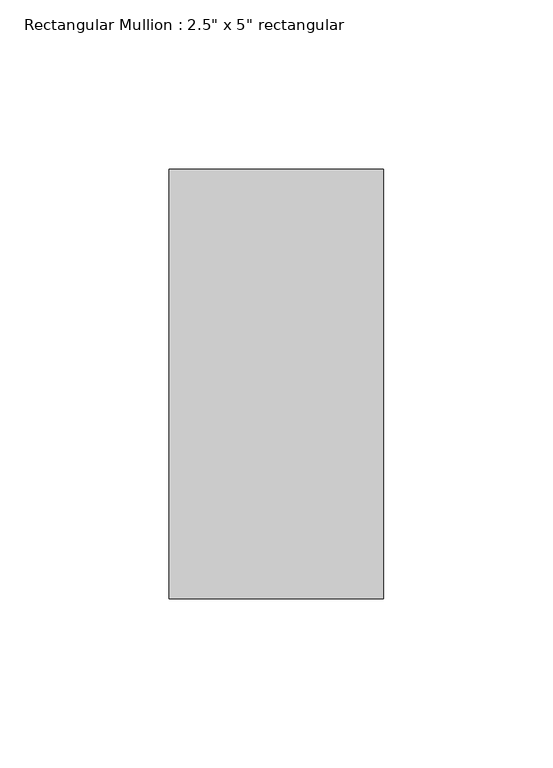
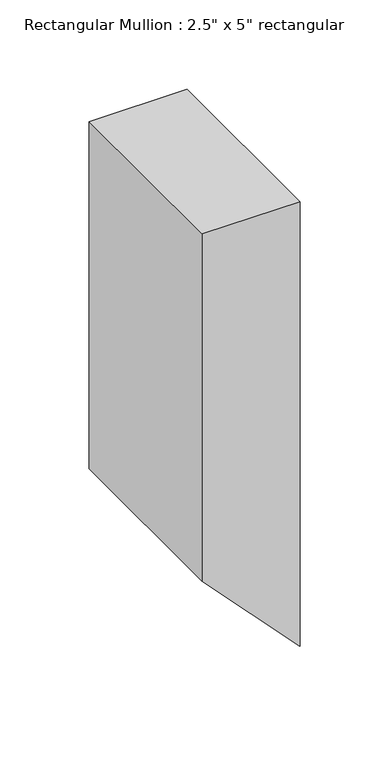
"""IFC4 building model written with IfcOpenShell, lengths in millimetres: member geometry."""

from ifc_helpers import new_model, si_unit, frame, origin, place, context, project, spatial, polyline, outline, extrude, source, transform, mapped, element, save


def member_6624d9f6(model_context):
    return source(origin(), model_context, "Body", "SweptSolid", [
        extrude(outline(polyline([(0.0, 0.0), (0.0, -63.5), (-237.7610414, -63.5), (-304.8, 0.0), (0.0, 0.0)])), frame((0.0, -63.5, 0.0), z_axis=(0.0, 1.0, 0.0), x_axis=(0.0, 0.0, 1.0)), (0.0, 0.0, 1.0), 127.0),
    ])


if __name__ == "__main__":
    model = new_model("IFC4")
    model_context = context("Model", 3, world=origin())
    ifc_project = project(units=[si_unit("LENGTHUNIT", "METRE", prefix="MILLI")], contexts=[model_context])
    site = spatial("IfcSite", under=ifc_project)
    building = spatial("IfcBuilding", under=site)
    placement = place(None, origin())
    member_shape = member_6624d9f6(model_context)
    element("IfcMember", 1, ObjectType="Rectangular Mullion : 2.5\" x 5\" rectangular", at=placement, inside=building, context=model_context, shape_type="MappedRepresentation", body=[
        mapped(member_shape, transform((0.0, 0.0, 0.0), x_axis=(1.0, 0.0, 0.0), y_axis=(0.0, 1.0, 0.0), z_axis=(0.0, 0.0, 1.0))),
    ])
    save(model, "model.ifc")
